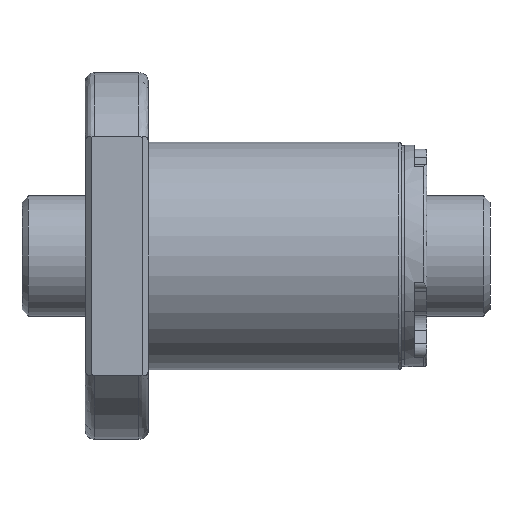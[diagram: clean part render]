
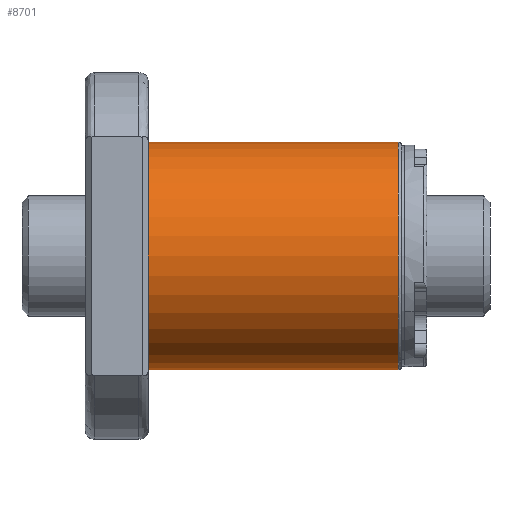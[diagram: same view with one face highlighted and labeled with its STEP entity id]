
A CAD part, front view. The second image highlights one B-rep face of the part: STEP entity #8701.
In plain terms, the highlighted cylindrical face has radius 18 mm (diameter 36 mm), a partial arc.
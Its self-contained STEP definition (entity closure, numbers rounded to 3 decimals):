
#408 = DIRECTION ( 'NONE',  ( 1., 0., 0. ) ) ;
#645 = ORIENTED_EDGE ( 'NONE', *, *, #5360, .T. ) ;
#943 = DIRECTION ( 'NONE',  ( 0., 0., 1. ) ) ;
#1212 = VERTEX_POINT ( 'NONE', #6407 ) ;
#1383 = EDGE_CURVE ( 'NONE', #6728, #7263, #7582, .T. ) ;
#1658 = AXIS2_PLACEMENT_3D ( 'NONE', #1908, #5998, #8780 ) ;
#1659 = CARTESIAN_POINT ( 'NONE',  ( 49.5, 0., 0. ) ) ;
#1855 = ORIENTED_EDGE ( 'NONE', *, *, #3832, .T. ) ;
#1908 = CARTESIAN_POINT ( 'NONE',  ( 0., 0., 0. ) ) ;
#2014 = EDGE_CURVE ( 'NONE', #1212, #5338, #8088, .T. ) ;
#3278 = AXIS2_PLACEMENT_3D ( 'NONE', #4415, #408, #5194 ) ;
#3352 = CARTESIAN_POINT ( 'NONE',  ( 10., 0., -18. ) ) ;
#3832 = EDGE_CURVE ( 'NONE', #6728, #1212, #5258, .T. ) ;
#4135 = ORIENTED_EDGE ( 'NONE', *, *, #2014, .T. ) ;
#4415 = CARTESIAN_POINT ( 'NONE',  ( 10., 0., 0. ) ) ;
#4463 = CARTESIAN_POINT ( 'NONE',  ( 0., 0., -18. ) ) ;
#4904 = AXIS2_PLACEMENT_3D ( 'NONE', #1659, #5102, #943 ) ;
#5102 = DIRECTION ( 'NONE',  ( -1., 0., 0. ) ) ;
#5194 = DIRECTION ( 'NONE',  ( 0., 0., 1. ) ) ;
#5258 = CIRCLE ( 'NONE', #4904, 18. ) ;
#5338 = VERTEX_POINT ( 'NONE', #8646 ) ;
#5360 = EDGE_CURVE ( 'NONE', #5338, #7263, #7711, .T. ) ;
#5370 = CARTESIAN_POINT ( 'NONE',  ( 0., 0., 18. ) ) ;
#5508 = VECTOR ( 'NONE', #5853, 1000. ) ;
#5853 = DIRECTION ( 'NONE',  ( -1., 0., 0. ) ) ;
#5998 = DIRECTION ( 'NONE',  ( -1., 0., 0. ) ) ;
#6133 = DIRECTION ( 'NONE',  ( -1., 0., 0. ) ) ;
#6407 = CARTESIAN_POINT ( 'NONE',  ( 49.5, 0., 18. ) ) ;
#6631 = CYLINDRICAL_SURFACE ( 'NONE', #1658, 18. ) ;
#6728 = VERTEX_POINT ( 'NONE', #7350 ) ;
#7263 = VERTEX_POINT ( 'NONE', #3352 ) ;
#7350 = CARTESIAN_POINT ( 'NONE',  ( 49.5, 0., -18. ) ) ;
#7582 = LINE ( 'NONE', #4463, #5508 ) ;
#7638 = VECTOR ( 'NONE', #6133, 1000. ) ;
#7711 = CIRCLE ( 'NONE', #3278, 18. ) ;
#8088 = LINE ( 'NONE', #5370, #7638 ) ;
#8315 = ORIENTED_EDGE ( 'NONE', *, *, #1383, .F. ) ;
#8451 = FACE_OUTER_BOUND ( 'NONE', #8668, .T. ) ;
#8646 = CARTESIAN_POINT ( 'NONE',  ( 10., 0., 18. ) ) ;
#8668 = EDGE_LOOP ( 'NONE', ( #8315, #1855, #4135, #645 ) ) ;
#8701 = ADVANCED_FACE ( 'NONE', ( #8451 ), #6631, .T. ) ;
#8780 = DIRECTION ( 'NONE',  ( 0., 0., 1. ) ) ;
